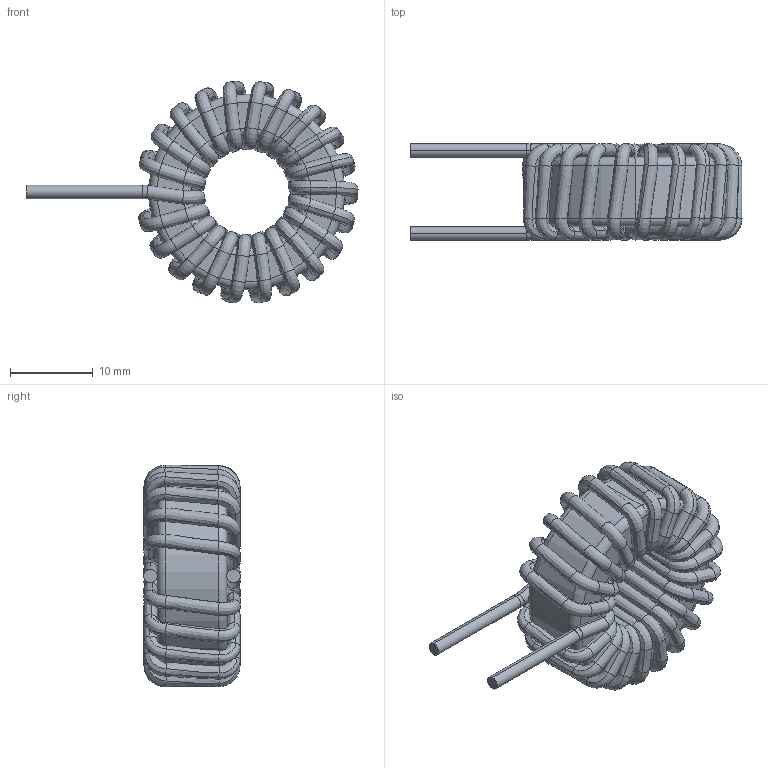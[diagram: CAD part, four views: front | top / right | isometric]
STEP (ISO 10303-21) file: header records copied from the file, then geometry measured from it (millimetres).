
FILE_DESCRIPTION (( 'STEP AP214' ), '1' );
FILE_NAME ('HF229-200-15AV REV.D.STEP', '2018-10-26T04:32:55', ( '' ), ( '' ), 'SwSTEP 2.0', 'SolidWorks 2015', '' );
FILE_SCHEMA (( 'AUTOMOTIVE_DESIGN' ));
Length unit declared in the file: millimetre
Products named in the file (1): HF229-200-15AV REV.D
Bounding box: 40.01 x 11.6 x 26.73 mm (x, y, z)
Volume: 3860.9 mm3; surface area: 4986.7 mm2
Topology: 4 solids, 4 shells, 374 faces, 744 edges, 378 vertices
Faces by surface type: bspline 346, cylinder 12, plane 8, torus 8
Entity records: 35517 total; most frequent: CARTESIAN_POINT 25581, ORIENTED_EDGE 1488, DIRECTION 826, EDGE_CURVE 744, AXIS2_PLACEMENT_3D 407, UNCERTAINTY_MEASURE_WITH_UNIT 380, PRESENTATION_STYLE_ASSIGNMENT 379, FILL_AREA_STYLE 379
